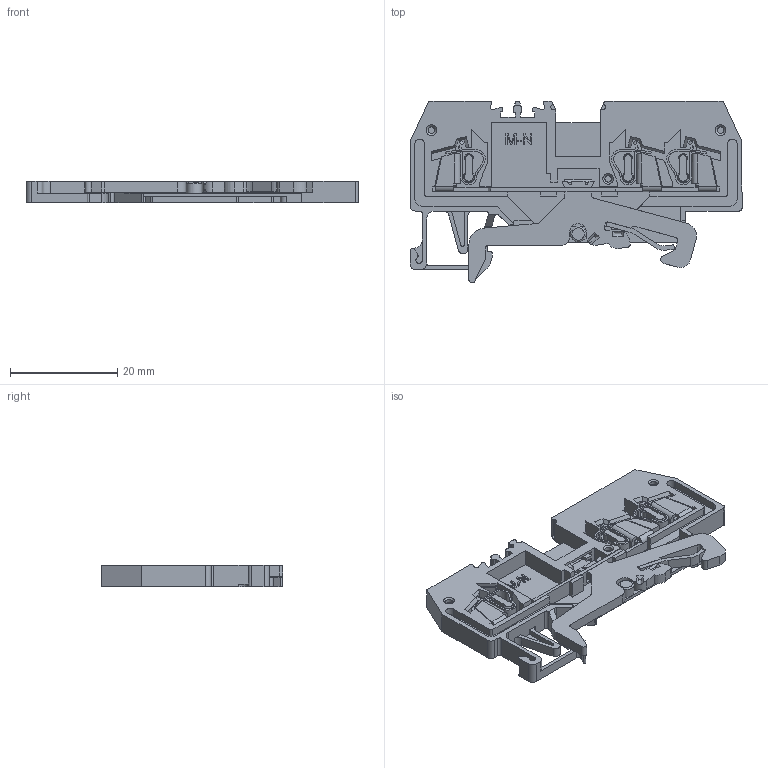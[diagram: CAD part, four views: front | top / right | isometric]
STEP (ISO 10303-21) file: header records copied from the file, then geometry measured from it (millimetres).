
FILE_DESCRIPTION (( 'STEP AP203' ), '1' );
FILE_NAME ('ﾊﾏﾐ1-1,5-3ﾂ-ﾐﾅ.STEP', '2019-03-01T13:55:02', ( '' ), ( '' ), 'SwSTEP 2.0', 'SolidWorks 2016', '' );
FILE_SCHEMA (( 'CONFIG_CONTROL_DESIGN' ));
Length unit declared in the file: millimetre
Products named in the file (1): ﾊﾏﾐ1-1,5-3ﾂ-ﾐﾅ
Bounding box: 62 x 33.9 x 4 mm (x, y, z)
Volume: 3346.8 mm3; surface area: 7480.4 mm2
Topology: 7 solids, 7 shells, 965 faces, 2707 edges, 1766 vertices
Faces by surface type: plane 685, cylinder 231, bspline 24, cone 21, torus 4
Full cylindrical faces by diameter (mm): 1.4 x3, 1.6 x3, 2.9 x1
Entity records: 32109 total; most frequent: CARTESIAN_POINT 7156, ORIENTED_EDGE 5376, DIRECTION 4914, EDGE_CURVE 2688, VECTOR 2094, LINE 2094, VERTEX_POINT 1764, AXIS2_PLACEMENT_3D 1410
